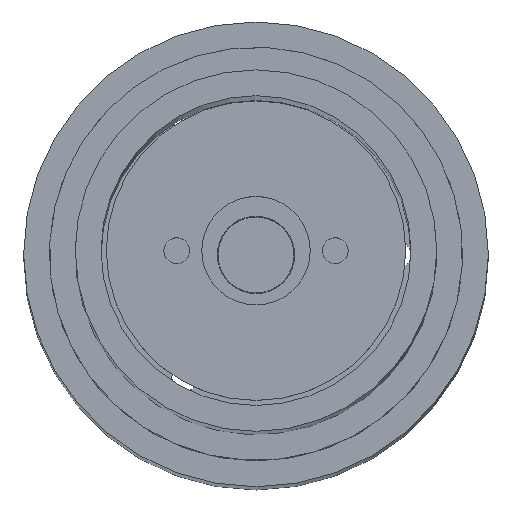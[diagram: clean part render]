
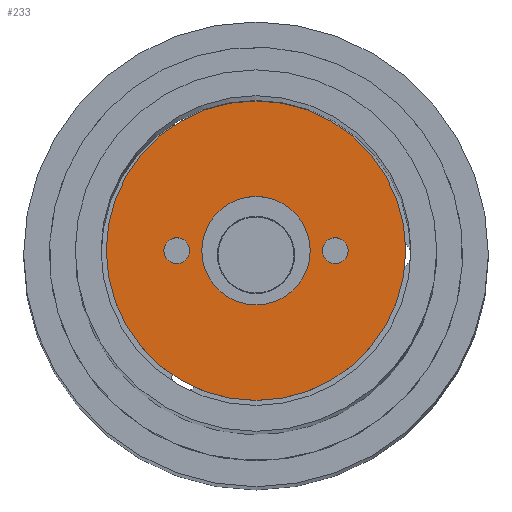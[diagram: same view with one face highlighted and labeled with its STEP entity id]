
A CAD part, top view. The second image highlights one B-rep face of the part: STEP entity #233.
In plain terms, the highlighted planar face has unit normal (0, 0, 1).
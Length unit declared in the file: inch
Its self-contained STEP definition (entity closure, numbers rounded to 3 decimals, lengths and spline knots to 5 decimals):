
#1 = DIRECTION ( 'NONE',  ( 1., 0., 0. ) ) ;
#21 = AXIS2_PLACEMENT_3D ( 'NONE', #905, #612, #621 ) ;
#63 = CARTESIAN_POINT ( 'NONE',  ( 0.525, 0., 0.375 ) ) ;
#88 = AXIS2_PLACEMENT_3D ( 'NONE', #497, #605, #403 ) ;
#94 = CARTESIAN_POINT ( 'NONE',  ( 0.8925, 0., 0.375 ) ) ;
#103 = CARTESIAN_POINT ( 'NONE',  ( 0., 0., 0.375 ) ) ;
#142 = CIRCLE ( 'NONE', #429, 0.525 ) ;
#159 = EDGE_LOOP ( 'NONE', ( #770 ) ) ;
#191 = EDGE_CURVE ( 'NONE', #789, #789, #142, .T. ) ;
#208 = DIRECTION ( 'NONE',  ( 1., 0., 0. ) ) ;
#212 = CARTESIAN_POINT ( 'NONE',  ( -0.6425, 0., 0.375 ) ) ;
#233 = ADVANCED_FACE ( 'NONE', ( #1216, #814, #710, #316 ), #614, .T. ) ;
#300 = CIRCLE ( 'NONE', #479, 1.45 ) ;
#316 = FACE_BOUND ( 'NONE', #159, .T. ) ;
#350 = ORIENTED_EDGE ( 'NONE', *, *, #1193, .F. ) ;
#398 = CARTESIAN_POINT ( 'NONE',  ( 0., 0., 0.375 ) ) ;
#403 = DIRECTION ( 'NONE',  ( 1., 0., 0. ) ) ;
#429 = AXIS2_PLACEMENT_3D ( 'NONE', #398, #886, #792 ) ;
#479 = AXIS2_PLACEMENT_3D ( 'NONE', #103, #898, #1 ) ;
#497 = CARTESIAN_POINT ( 'NONE',  ( 0.7675, 0., 0.375 ) ) ;
#551 = ORIENTED_EDGE ( 'NONE', *, *, #1276, .T. ) ;
#605 = DIRECTION ( 'NONE',  ( 0., 0., 1. ) ) ;
#612 = DIRECTION ( 'NONE',  ( 0., 0., 1. ) ) ;
#614 = PLANE ( 'NONE',  #971 ) ;
#621 = DIRECTION ( 'NONE',  ( 1., 0., 0. ) ) ;
#654 = EDGE_LOOP ( 'NONE', ( #551 ) ) ;
#710 = FACE_OUTER_BOUND ( 'NONE', #654, .T. ) ;
#721 = ORIENTED_EDGE ( 'NONE', *, *, #1068, .F. ) ;
#770 = ORIENTED_EDGE ( 'NONE', *, *, #191, .F. ) ;
#789 = VERTEX_POINT ( 'NONE', #63 ) ;
#792 = DIRECTION ( 'NONE',  ( 1., 0., 0. ) ) ;
#814 = FACE_BOUND ( 'NONE', #850, .T. ) ;
#850 = EDGE_LOOP ( 'NONE', ( #721 ) ) ;
#886 = DIRECTION ( 'NONE',  ( 0., 0., 1. ) ) ;
#898 = DIRECTION ( 'NONE',  ( 0., 0., 1. ) ) ;
#903 = CARTESIAN_POINT ( 'NONE',  ( 1.45, 0., 0.375 ) ) ;
#905 = CARTESIAN_POINT ( 'NONE',  ( -0.7675, 0., 0.375 ) ) ;
#971 = AXIS2_PLACEMENT_3D ( 'NONE', #1104, #989, #208 ) ;
#977 = VERTEX_POINT ( 'NONE', #94 ) ;
#989 = DIRECTION ( 'NONE',  ( 0., 0., 1. ) ) ;
#1014 = CIRCLE ( 'NONE', #88, 0.125 ) ;
#1026 = EDGE_LOOP ( 'NONE', ( #350 ) ) ;
#1068 = EDGE_CURVE ( 'NONE', #977, #977, #1014, .T. ) ;
#1101 = VERTEX_POINT ( 'NONE', #903 ) ;
#1104 = CARTESIAN_POINT ( 'NONE',  ( 0., 0., 0.375 ) ) ;
#1109 = VERTEX_POINT ( 'NONE', #212 ) ;
#1147 = CIRCLE ( 'NONE', #21, 0.125 ) ;
#1193 = EDGE_CURVE ( 'NONE', #1109, #1109, #1147, .T. ) ;
#1216 = FACE_BOUND ( 'NONE', #1026, .T. ) ;
#1276 = EDGE_CURVE ( 'NONE', #1101, #1101, #300, .T. ) ;
